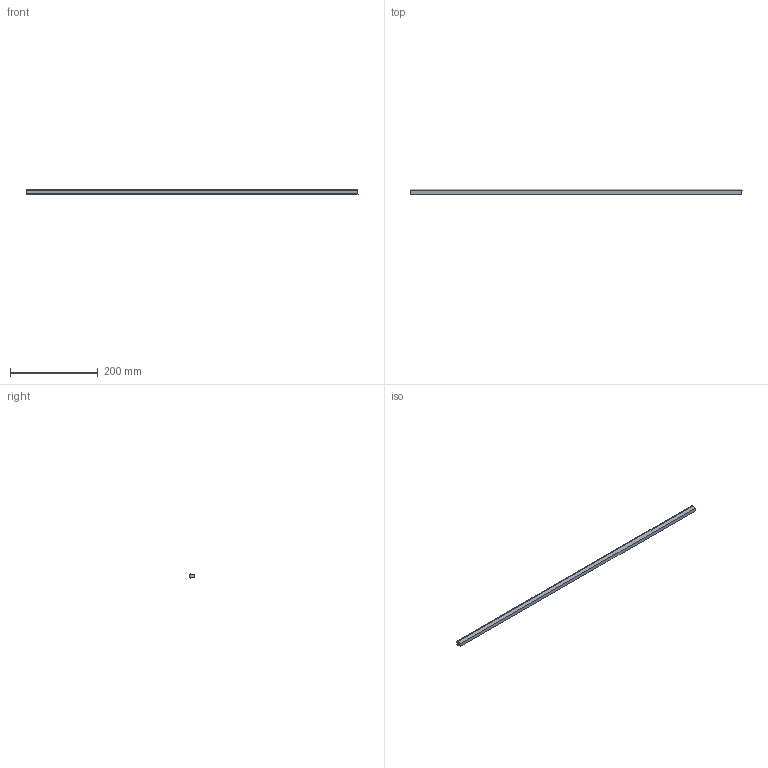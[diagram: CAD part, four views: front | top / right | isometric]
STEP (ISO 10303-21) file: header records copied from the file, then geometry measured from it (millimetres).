
FILE_DESCRIPTION(/* description */ (''),/* implementation_level */ '2;1');
FILE_NAME(/* name */ 'Pos0-Antislip-Rubber-0st_E',/* time_stamp */ '2024-08-06T13:37:43+02:00',/* author */ (''),/* organization */ (''),/* preprocessor_version */ 'ST-DEVELOPER v16.5',/* originating_system */ 'HiCAD 2024 2901.2 Build 361',/* authorisation */ '');
FILE_SCHEMA (('AUTOMOTIVE_DESIGN { 1 0 10303 214 1 1 1 1 }'));
Length unit declared in the file: millimetre
Products named in the file (1): Pos0-Antislip-Rubber-0st
Bounding box: 755.05 x 12 x 12 mm (x, y, z)
Volume: 75505 mm3; surface area: 34673.2 mm2
Topology: 1 solids, 1 shells, 10 faces, 24 edges, 16 vertices
Faces by surface type: plane 10
Entity records: 546 total; most frequent: CARTESIAN_POINT 50, PRESENTATION_STYLE_ASSIGNMENT 49, COLOUR_RGB 49, DRAUGHTING_PRE_DEFINED_CURVE_FONT 48, CURVE_STYLE 48, OVER_RIDING_STYLED_ITEM 48, ORIENTED_EDGE 48, DIRECTION 44
